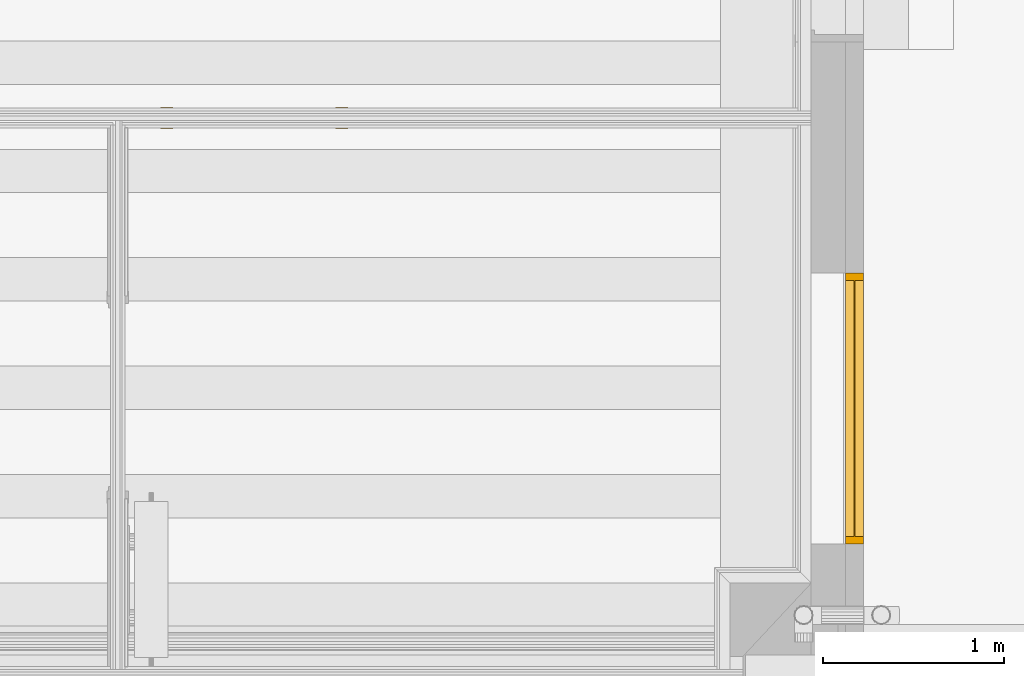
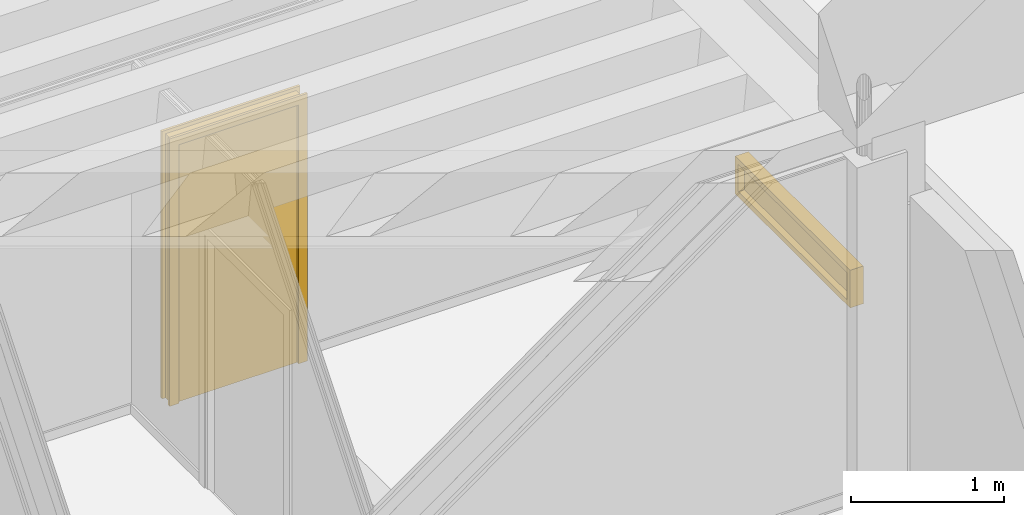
# One storey, part 28 of 106: 1 door, 1 window.
"""IFC2X3 building model written with IfcOpenShell, lengths in metres."""

from ifc_helpers import new_model, entity, si_unit, converted_unit, derived_unit, money_unit, direction, frame, origin_with_axes, place, context, subcontext, project, spatial, faceted_brep, material, type_object, element, save


model = new_model("IFC2X3")

# Units and contexts
model_context = context("Model", 3, precision=1e-05, world=origin_with_axes(), true_north=direction((0.0, 1.0)))
body_context = subcontext(model_context, "Body", "Model", "MODEL_VIEW", scale=1.0)
ifc_project = project(units=[si_unit("LENGTHUNIT", "METRE"), si_unit("AREAUNIT", "SQUARE_METRE"), si_unit("VOLUMEUNIT", "CUBIC_METRE"), si_unit("ABSORBEDDOSEUNIT", "GRAY"), si_unit("AMOUNTOFSUBSTANCEUNIT", "MOLE"), si_unit("DOSEEQUIVALENTUNIT", "SIEVERT"), si_unit("ELECTRICCAPACITANCEUNIT", "FARAD"), si_unit("ELECTRICCHARGEUNIT", "COULOMB"), si_unit("ELECTRICCONDUCTANCEUNIT", "SIEMENS"), si_unit("ELECTRICCURRENTUNIT", "AMPERE"), si_unit("ELECTRICRESISTANCEUNIT", "OHM"), si_unit("ELECTRICVOLTAGEUNIT", "VOLT"), si_unit("ENERGYUNIT", "JOULE"), si_unit("FORCEUNIT", "NEWTON"), si_unit("FREQUENCYUNIT", "HERTZ"), si_unit("ILLUMINANCEUNIT", "LUX"), si_unit("INDUCTANCEUNIT", "HENRY"), si_unit("LUMINOUSFLUXUNIT", "LUMEN"), si_unit("LUMINOUSINTENSITYUNIT", "CANDELA"), si_unit("MAGNETICFLUXDENSITYUNIT", "TESLA"), si_unit("MAGNETICFLUXUNIT", "WEBER"), si_unit("MASSUNIT", "GRAM"), converted_unit("PLANEANGLEUNIT", "degree", entity("IfcReal", 0.0174532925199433), si_unit("PLANEANGLEUNIT", "RADIAN"), dimensions=[0, 0, 0, 0, 0, 0, 0]), si_unit("POWERUNIT", "WATT"), si_unit("PRESSUREUNIT", "PASCAL"), si_unit("RADIOACTIVITYUNIT", "BECQUEREL"), si_unit("SOLIDANGLEUNIT", "STERADIAN"), si_unit("THERMODYNAMICTEMPERATUREUNIT", "KELVIN"), si_unit("TIMEUNIT", "SECOND"), derived_unit("ACCELERATIONUNIT", [(si_unit("LENGTHUNIT", "METRE"), 1), (si_unit("TIMEUNIT", "SECOND"), -2)]), derived_unit("ANGULARVELOCITYUNIT", [(converted_unit("PLANEANGLEUNIT", "degree", entity("IfcReal", 0.0174532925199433), si_unit("PLANEANGLEUNIT", "RADIAN"), dimensions=[0, 0, 0, 0, 0, 0, 0]), 1), (si_unit("TIMEUNIT", "SECOND"), -1)]), derived_unit("CURVATUREUNIT", [(converted_unit("PLANEANGLEUNIT", "degree", entity("IfcReal", 0.0174532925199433), si_unit("PLANEANGLEUNIT", "RADIAN"), dimensions=[0, 0, 0, 0, 0, 0, 0]), 1), (si_unit("LENGTHUNIT", "METRE"), -1)]), derived_unit("DYNAMICVISCOSITYUNIT", [(si_unit("PRESSUREUNIT", "PASCAL"), 1), (si_unit("TIMEUNIT", "SECOND"), 1)]), derived_unit("HEATFLUXDENSITYUNIT", [(si_unit("POWERUNIT", "WATT"), 1), (si_unit("LENGTHUNIT", "METRE"), -2)]), derived_unit("HEATINGVALUEUNIT", [(si_unit("ENERGYUNIT", "JOULE"), 1), (si_unit("MASSUNIT", "GRAM"), -1)]), derived_unit("INTEGERCOUNTRATEUNIT", [(si_unit("TIMEUNIT", "SECOND"), -1)]), derived_unit("IONCONCENTRATIONUNIT", [(si_unit("MASSUNIT", "GRAM"), 1), (si_unit("VOLUMEUNIT", "CUBIC_METRE"), -1)]), derived_unit("ISOTHERMALMOISTURECAPACITYUNIT", [(si_unit("VOLUMEUNIT", "CUBIC_METRE"), 1), (si_unit("MASSUNIT", "GRAM"), -1)]), derived_unit("KINEMATICVISCOSITYUNIT", [(si_unit("AREAUNIT", "SQUARE_METRE"), 1), (si_unit("TIMEUNIT", "SECOND"), -1)]), derived_unit("LINEARFORCEUNIT", [(si_unit("FORCEUNIT", "NEWTON"), 1), (si_unit("LENGTHUNIT", "METRE"), -1)]), derived_unit("LINEARMOMENTUNIT", [(si_unit("FORCEUNIT", "NEWTON"), 1), (si_unit("LENGTHUNIT", "METRE"), -1)]), derived_unit("LINEARSTIFFNESSUNIT", [(si_unit("FORCEUNIT", "NEWTON"), 1), (si_unit("LENGTHUNIT", "METRE"), -1)]), derived_unit("LINEARVELOCITYUNIT", [(si_unit("LENGTHUNIT", "METRE"), 1), (si_unit("TIMEUNIT", "SECOND"), -1)]), derived_unit("LUMINOUSINTENSITYDISTRIBUTIONUNIT", [(si_unit("LUMINOUSINTENSITYUNIT", "CANDELA"), 1), (si_unit("LUMINOUSFLUXUNIT", "LUMEN"), -1)]), derived_unit("MASSDENSITYUNIT", [(si_unit("MASSUNIT", "GRAM"), 1), (si_unit("VOLUMEUNIT", "CUBIC_METRE"), -1)]), derived_unit("MASSFLOWRATEUNIT", [(si_unit("MASSUNIT", "GRAM"), 1), (si_unit("TIMEUNIT", "SECOND"), -1)]), derived_unit("MASSPERLENGTHUNIT", [(si_unit("MASSUNIT", "GRAM"), 1), (si_unit("LENGTHUNIT", "METRE"), -1)]), derived_unit("MODULUSOFELASTICITYUNIT", [(si_unit("FORCEUNIT", "NEWTON"), 1), (si_unit("AREAUNIT", "SQUARE_METRE"), -1)]), derived_unit("MODULUSOFLINEARSUBGRADEREACTIONUNIT", [(si_unit("FORCEUNIT", "NEWTON"), 1), (si_unit("LENGTHUNIT", "METRE"), -2)]), derived_unit("MODULUSOFROTATIONALSUBGRADEREACTIONUNIT", [(si_unit("FORCEUNIT", "NEWTON"), 1), (si_unit("LENGTHUNIT", "METRE"), 1)]), derived_unit("MODULUSOFSUBGRADEREACTIONUNIT", [(si_unit("FORCEUNIT", "NEWTON"), 1), (si_unit("VOLUMEUNIT", "CUBIC_METRE"), -1)]), derived_unit("MOISTUREDIFFUSIVITYUNIT", [(si_unit("VOLUMEUNIT", "CUBIC_METRE"), 1), (si_unit("TIMEUNIT", "SECOND"), -1)]), derived_unit("MOLECULARWEIGHTUNIT", [(si_unit("MASSUNIT", "GRAM"), 1), (si_unit("AMOUNTOFSUBSTANCEUNIT", "MOLE"), -1)]), derived_unit("PLANARFORCEUNIT", [(si_unit("FORCEUNIT", "NEWTON"), 1), (si_unit("LENGTHUNIT", "METRE"), -2)]), derived_unit("ROTATIONALFREQUENCYUNIT", [(si_unit("TIMEUNIT", "SECOND"), -1)]), derived_unit("ROTATIONALMASSUNIT", [(si_unit("MASSUNIT", "GRAM"), 1), (si_unit("LENGTHUNIT", "METRE"), 2)]), derived_unit("ROTATIONALSTIFFNESSUNIT", [(si_unit("FORCEUNIT", "NEWTON"), 1), (si_unit("LENGTHUNIT", "METRE"), 1), (converted_unit("PLANEANGLEUNIT", "degree", entity("IfcReal", 0.0174532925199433), si_unit("PLANEANGLEUNIT", "RADIAN"), dimensions=[0, 0, 0, 0, 0, 0, 0]), -1)]), derived_unit("SECTIONAREAINTEGRALUNIT", [(si_unit("LENGTHUNIT", "METRE"), 5)]), derived_unit("SECTIONMODULUSUNIT", [(si_unit("LENGTHUNIT", "METRE"), 3)]), derived_unit("SHEARMODULUSUNIT", [(si_unit("FORCEUNIT", "NEWTON"), 1), (si_unit("AREAUNIT", "SQUARE_METRE"), -1)]), derived_unit("SOUNDPOWERUNIT", [(si_unit("ENERGYUNIT", "JOULE"), 1), (si_unit("TIMEUNIT", "SECOND"), -1)]), derived_unit("SPECIFICHEATCAPACITYUNIT", [(si_unit("FORCEUNIT", "NEWTON"), 1), (si_unit("MASSUNIT", "GRAM"), -1), (si_unit("THERMODYNAMICTEMPERATUREUNIT", "KELVIN"), -1)]), derived_unit("TEMPERATUREGRADIENTUNIT", [(si_unit("THERMODYNAMICTEMPERATUREUNIT", "KELVIN"), 1), (si_unit("LENGTHUNIT", "METRE"), -1)]), derived_unit("THERMALADMITTANCEUNIT", [(si_unit("POWERUNIT", "WATT"), 1), (si_unit("AREAUNIT", "SQUARE_METRE"), -1), (si_unit("THERMODYNAMICTEMPERATUREUNIT", "KELVIN"), -1)]), derived_unit("THERMALCONDUCTANCEUNIT", [(si_unit("POWERUNIT", "WATT"), 1), (si_unit("LENGTHUNIT", "METRE"), -1), (si_unit("THERMODYNAMICTEMPERATUREUNIT", "KELVIN"), -1)]), derived_unit("THERMALEXPANSIONCOEFFICIENTUNIT", [(si_unit("THERMODYNAMICTEMPERATUREUNIT", "KELVIN"), -1)]), derived_unit("THERMALRESISTANCEUNIT", [(si_unit("AREAUNIT", "SQUARE_METRE"), 1), (si_unit("POWERUNIT", "WATT"), -1)]), derived_unit("THERMALTRANSMITTANCEUNIT", [(si_unit("POWERUNIT", "WATT"), 1), (si_unit("AREAUNIT", "SQUARE_METRE"), -1), (si_unit("THERMODYNAMICTEMPERATUREUNIT", "KELVIN"), -1)]), derived_unit("TORQUEUNIT", [(si_unit("FORCEUNIT", "NEWTON"), 1), (si_unit("LENGTHUNIT", "METRE"), 1)]), derived_unit("VAPORPERMEABILITYUNIT", [(si_unit("MASSUNIT", "GRAM"), 1), (si_unit("TIMEUNIT", "SECOND"), -1)]), derived_unit("VOLUMETRICFLOWRATEUNIT", [(si_unit("VOLUMEUNIT", "CUBIC_METRE"), 1), (si_unit("TIMEUNIT", "SECOND"), -1)]), derived_unit("WARPINGCONSTANTUNIT", [(si_unit("LENGTHUNIT", "METRE"), 6)]), derived_unit("WARPINGMOMENTUNIT", [(si_unit("FORCEUNIT", "NEWTON"), 1), (si_unit("LENGTHUNIT", "METRE"), 2)]), money_unit("GBP")], contexts=[model_context])

# Site, building, storey, space
site_placement = place(None, origin_with_axes())
site = spatial("IfcSite", under=ifc_project, at=site_placement, Name="Site", CompositionType="ELEMENT")
building_placement = place(site_placement, origin_with_axes())
building = spatial("IfcBuilding", under=site, at=building_placement, Name="Building01", CompositionType="ELEMENT")
storey_placement = place(building_placement, origin_with_axes())
storey = spatial("IfcBuildingStorey", under=building, at=storey_placement, Name="GF", CompositionType="ELEMENT", Elevation=0.0)
space_1_placement = place(storey_placement, frame((12.311434, 15.867846, 0.0), z_axis=(0.0, 0.0, 1.0), x_axis=(0.0, 1.0, 0.0)))
space_1 = spatial("IfcSpace", under=storey, at=space_1_placement, Name="1", CompositionType="ELEMENT", InteriorOrExteriorSpace="NOTDEFINED")

# Window
ifc_material_1 = material(Name="A_BSUK_Window_Frames")
window_style = type_object("IfcWindowStyle", Name="A-Fixed", ConstructionType="NOTDEFINED", OperationType="USERDEFINED", ParameterTakesPrecedence=False, Sizeable=False)
window_placement = place(storey_placement, frame((9.443334, 15.344813, 0.998), z_axis=(0.0, 0.0, 1.0), x_axis=(0.0, 1.0, 0.0)))
element("IfcWindow", 1, at=window_placement, inside=space_1, type_object=window_style, material=ifc_material_1, Name="0.09", ObjectType="A-Fixed", OverallHeight=0.300000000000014, OverallWidth=1.50000000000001, context=body_context, shape_type="Brep", body=[
    faceted_brep([(0.042, 0.1, 0.042), (0.042, 0.1, 0.258), (0.042, 0.0, 0.258), (0.042, 0.0, 0.042), (0.0, 0.0, 0.3), (1.5, 0.0, 0.3), (1.5, 0.1, 0.3), (0.0, 0.1, 0.3), (0.0, 0.0, 0.0), (0.0, 0.1, 0.0), (1.5, 0.0, 0.0), (1.5, 0.1, 0.0), (1.458, 0.1, 0.042), (1.458, 0.1, 0.258), (1.458, 0.0, 0.042), (1.458, 0.0, 0.258)], [[[0, 1, 2, 3]], [[4, 5, 6, 7]], [[8, 4, 7, 9]], [[10, 8, 9, 11]], [[5, 10, 11, 6]], [[11, 9, 7, 6], [12, 13, 1, 0]], [[12, 0, 3, 14]], [[13, 12, 14, 15]], [[1, 13, 15, 2]], [[10, 5, 4, 8], [14, 3, 2, 15]]]),
    faceted_brep([(0.042, 0.053175, 0.042), (0.042, 0.046825, 0.042), (0.042, 0.046825, 0.258), (0.042, 0.053175, 0.258), (1.458, 0.053175, 0.258), (1.458, 0.046825, 0.258), (1.458, 0.046825, 0.042), (1.458, 0.053175, 0.042)], [[[0, 1, 2, 3]], [[4, 5, 6, 7]], [[7, 6, 1, 0]], [[3, 4, 7, 0]], [[3, 2, 5, 4]], [[1, 6, 5, 2]]]),
])

# Space
space_2_placement = place(storey_placement, frame((8.552822, 20.936203, 0.217025), z_axis=(0.0, 0.0, 1.0), x_axis=(-0.99931258, 0.03707243, 0.0)))
space_2 = spatial("IfcSpace", under=storey, at=space_2_placement, Name="01", CompositionType="ELEMENT", InteriorOrExteriorSpace="NOTDEFINED")

# Door
ifc_material_2 = material(Name="A_BSUK_Doors")
door_style = type_object("IfcDoorStyle", Name="A-Doors-SingleFlush", ConstructionType="USERDEFINED", OperationType="SINGLE_SWING_RIGHT", ParameterTakesPrecedence=False, Sizeable=False)
door_placement = place(storey_placement, frame((6.520525, 17.663571, 0.148), z_axis=(0.0, 0.0, 1.0), x_axis=(-1.0, 0.0, 0.0)))
element("IfcDoor", 2, at=door_placement, inside=space_2, type_object=door_style, material=ifc_material_2, Name="0.12", ObjectType="A-Doors-SingleFlush", OverallHeight=2.12700000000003, OverallWidth=1.03800000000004, context=body_context, shape_type="Brep", body=[
    faceted_brep([(0.9, -0.099, 0.0), (0.969, -0.099, 0.0), (0.969, -0.099, 2.127), (-0.069, -0.099, 2.127), (-0.069, -0.099, 0.0), (0.0, -0.099, 0.0), (0.0, -0.099, 2.058), (0.9, -0.099, 2.058), (-0.069, -0.08, 0.0), (-0.069, -0.08, 2.127), (0.969, -0.08, 2.127), (0.969, -0.08, 0.0), (0.9, 0.019, 0.0), (0.969, 0.019, 0.0), (0.969, 0.0, 0.0), (0.942, 0.0, 0.0), (0.942, -0.08, 0.0), (0.9, 0.019, 2.058), (0.0, 0.019, 2.058), (0.0, 0.019, 0.0), (-0.069, 0.019, 0.0), (-0.069, 0.019, 2.127), (0.969, 0.019, 2.127), (0.969, 0.0, 2.127), (0.942, -0.08, 2.1), (0.942, 0.0, 2.1), (-0.042, -0.08, 2.1), (-0.042, 0.0, 2.1), (-0.042, -0.08, 0.0), (-0.042, 0.0, 0.0), (-0.069, 0.0, 2.127), (-0.069, 0.0, 0.0)], [[[0, 1, 2, 3, 4, 5, 6, 7]], [[8, 4, 3, 9]], [[10, 2, 1, 11]], [[9, 3, 2, 10]], [[12, 13, 14, 15, 16, 11, 1, 0]], [[7, 17, 12, 0]], [[6, 18, 17, 7]], [[18, 19, 20, 21, 22, 13, 12, 17]], [[5, 19, 18, 6]], [[13, 22, 23, 14]], [[24, 16, 15, 25]], [[26, 24, 25, 27]], [[11, 16, 24, 26, 28, 8, 9, 10]], [[27, 29, 28, 26]], [[25, 15, 14, 23, 30, 31, 29, 27]], [[5, 4, 8, 28, 29, 31, 20, 19]], [[30, 21, 20, 31]], [[23, 22, 21, 30]]]),
    faceted_brep([(0.0, -0.09, 2.058), (0.0, -0.04, 2.058), (0.0, -0.04, 0.0), (0.0, -0.09, 0.0), (0.875, -0.09, 0.0), (0.9, -0.09, 0.0), (0.9, -0.09, 2.058), (0.025, -0.09, 0.0), (0.025, -0.09, 2.033), (0.875, -0.09, 2.033), (0.875, -0.04, 0.0), (0.9, -0.04, 0.0), (0.9, -0.04, 2.058), (0.025, -0.04, 2.033), (0.025, -0.04, 0.0), (0.875, -0.04, 2.033)], [[[0, 1, 2, 3]], [[4, 5, 6, 0, 3, 7, 8, 9]], [[10, 11, 5, 4]], [[6, 12, 1, 0]], [[5, 11, 12, 6]], [[13, 14, 2, 1, 12, 11, 10, 15]], [[7, 14, 13, 8]], [[7, 3, 2, 14]], [[9, 15, 10, 4]], [[8, 13, 15, 9]]]),
    faceted_brep([(0.9, -0.04, 0.0), (0.9, 0.0, 0.0), (0.9, 0.0, 2.058), (0.9, -0.04, 2.058), (0.0, -0.04, 2.058), (0.0, 0.0, 2.058), (0.0, 0.0, 0.0), (0.0, -0.04, 0.0)], [[[0, 1, 2, 3]], [[4, 5, 6, 7]], [[7, 6, 1, 0]], [[3, 4, 7, 0]], [[3, 2, 5, 4]], [[1, 6, 5, 2]]]),
])

save(model, "model.ifc")
